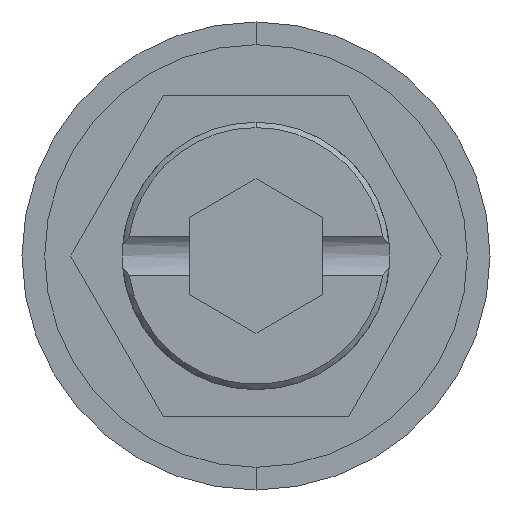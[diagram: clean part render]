
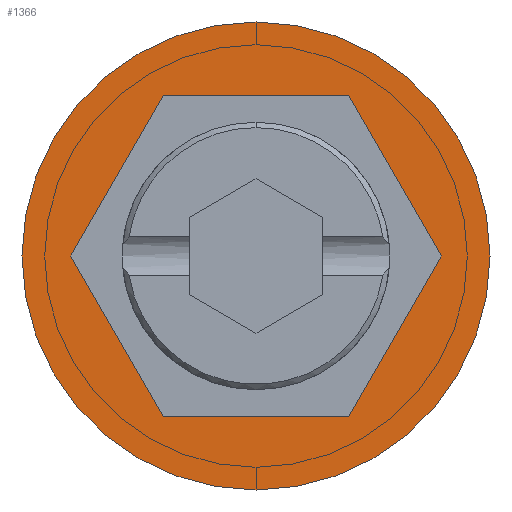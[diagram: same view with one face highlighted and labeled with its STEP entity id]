
A CAD part, front view. The second image highlights one B-rep face of the part: STEP entity #1366.
In plain terms, the highlighted planar face has unit normal (0, -1, 0).
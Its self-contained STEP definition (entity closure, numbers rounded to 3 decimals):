
#4 = CARTESIAN_POINT ( 'NONE',  ( -3.464, 0., 6. ) ) ;
#53 = VECTOR ( 'NONE', #363, 1000. ) ;
#63 = LINE ( 'NONE', #357, #53 ) ;
#76 = CIRCLE ( 'NONE', #1567, 8.75 ) ;
#153 = CARTESIAN_POINT ( 'NONE',  ( 0., 0., -8.75 ) ) ;
#246 = FACE_OUTER_BOUND ( 'NONE', #2139, .T. ) ;
#284 = FACE_BOUND ( 'NONE', #2234, .T. ) ;
#292 = DIRECTION ( 'NONE',  ( 0., 0., -1. ) ) ;
#295 = DIRECTION ( 'NONE',  ( 0., -1., 0. ) ) ;
#296 = CARTESIAN_POINT ( 'NONE',  ( 0., 0., 0. ) ) ;
#328 = CIRCLE ( 'NONE', #1523, 8.75 ) ;
#341 = CARTESIAN_POINT ( 'NONE',  ( 3.464, 0., 6. ) ) ;
#357 = CARTESIAN_POINT ( 'NONE',  ( -3.464, 0., -6. ) ) ;
#359 = DIRECTION ( 'NONE',  ( -1., 0., 0. ) ) ;
#363 = DIRECTION ( 'NONE',  ( 1., 0., 0. ) ) ;
#392 = DIRECTION ( 'NONE',  ( -0.5, 0., 0.866 ) ) ;
#397 = LINE ( 'NONE', #1685, #402 ) ;
#402 = VECTOR ( 'NONE', #1696, 1000. ) ;
#410 = CARTESIAN_POINT ( 'NONE',  ( 6.928, 0., 0. ) ) ;
#420 = VECTOR ( 'NONE', #392, 1000. ) ;
#423 = LINE ( 'NONE', #410, #420 ) ;
#462 = LINE ( 'NONE', #341, #470 ) ;
#470 = VECTOR ( 'NONE', #359, 1000. ) ;
#485 = VECTOR ( 'NONE', #2083, 1000. ) ;
#487 = LINE ( 'NONE', #2192, #485 ) ;
#518 = LINE ( 'NONE', #2020, #537 ) ;
#537 = VECTOR ( 'NONE', #2044, 1000. ) ;
#793 = EDGE_CURVE ( 'NONE', #1076, #800, #518, .T. ) ;
#800 = VERTEX_POINT ( 'NONE', #2038 ) ;
#803 = ORIENTED_EDGE ( 'NONE', *, *, #793, .F. ) ;
#818 = CARTESIAN_POINT ( 'NONE',  ( 3.464, 0., -6. ) ) ;
#871 = EDGE_CURVE ( 'NONE', #1953, #1076, #487, .T. ) ;
#939 = ORIENTED_EDGE ( 'NONE', *, *, #1116, .F. ) ;
#949 = EDGE_CURVE ( 'NONE', #1271, #1953, #462, .T. ) ;
#998 = ORIENTED_EDGE ( 'NONE', *, *, #1245, .T. ) ;
#1038 = EDGE_CURVE ( 'NONE', #1131, #1271, #423, .T. ) ;
#1076 = VERTEX_POINT ( 'NONE', #1633 ) ;
#1108 = ORIENTED_EDGE ( 'NONE', *, *, #949, .F. ) ;
#1109 = VERTEX_POINT ( 'NONE', #1605 ) ;
#1116 = EDGE_CURVE ( 'NONE', #1593, #1131, #397, .T. ) ;
#1131 = VERTEX_POINT ( 'NONE', #1710 ) ;
#1190 = ORIENTED_EDGE ( 'NONE', *, *, #1780, .F. ) ;
#1245 = EDGE_CURVE ( 'NONE', #1109, #1886, #328, .T. ) ;
#1271 = VERTEX_POINT ( 'NONE', #1510 ) ;
#1278 = DIRECTION ( 'NONE',  ( 0., 0., -1. ) ) ;
#1280 = DIRECTION ( 'NONE',  ( 0., -1., 0. ) ) ;
#1297 = CARTESIAN_POINT ( 'NONE',  ( 0., 0., 0. ) ) ;
#1303 = PLANE ( 'NONE',  #2202 ) ;
#1366 = ADVANCED_FACE ( 'NONE', ( #284, #246 ), #1303, .T. ) ;
#1510 = CARTESIAN_POINT ( 'NONE',  ( 3.464, 0., 6. ) ) ;
#1523 = AXIS2_PLACEMENT_3D ( 'NONE', #1582, #1581, #1588 ) ;
#1543 = ORIENTED_EDGE ( 'NONE', *, *, #1804, .T. ) ;
#1567 = AXIS2_PLACEMENT_3D ( 'NONE', #296, #295, #292 ) ;
#1581 = DIRECTION ( 'NONE',  ( 0., -1., 0. ) ) ;
#1582 = CARTESIAN_POINT ( 'NONE',  ( 0., 0., 0. ) ) ;
#1588 = DIRECTION ( 'NONE',  ( 0., 0., -1. ) ) ;
#1593 = VERTEX_POINT ( 'NONE', #818 ) ;
#1605 = CARTESIAN_POINT ( 'NONE',  ( 0., 0., 8.75 ) ) ;
#1633 = CARTESIAN_POINT ( 'NONE',  ( -6.928, 0., 0. ) ) ;
#1685 = CARTESIAN_POINT ( 'NONE',  ( 3.464, 0., -6. ) ) ;
#1696 = DIRECTION ( 'NONE',  ( 0.5, 0., 0.866 ) ) ;
#1710 = CARTESIAN_POINT ( 'NONE',  ( 6.928, 0., 0. ) ) ;
#1759 = ORIENTED_EDGE ( 'NONE', *, *, #1038, .F. ) ;
#1780 = EDGE_CURVE ( 'NONE', #800, #1593, #63, .T. ) ;
#1804 = EDGE_CURVE ( 'NONE', #1886, #1109, #76, .T. ) ;
#1886 = VERTEX_POINT ( 'NONE', #153 ) ;
#1953 = VERTEX_POINT ( 'NONE', #4 ) ;
#2020 = CARTESIAN_POINT ( 'NONE',  ( -6.928, 0., 0. ) ) ;
#2038 = CARTESIAN_POINT ( 'NONE',  ( -3.464, 0., -6. ) ) ;
#2044 = DIRECTION ( 'NONE',  ( 0.5, 0., -0.866 ) ) ;
#2083 = DIRECTION ( 'NONE',  ( -0.5, 0., -0.866 ) ) ;
#2139 = EDGE_LOOP ( 'NONE', ( #1543, #998 ) ) ;
#2147 = ORIENTED_EDGE ( 'NONE', *, *, #871, .F. ) ;
#2192 = CARTESIAN_POINT ( 'NONE',  ( -3.464, 0., 6. ) ) ;
#2202 = AXIS2_PLACEMENT_3D ( 'NONE', #1297, #1280, #1278 ) ;
#2234 = EDGE_LOOP ( 'NONE', ( #1190, #803, #2147, #1108, #1759, #939 ) ) ;
